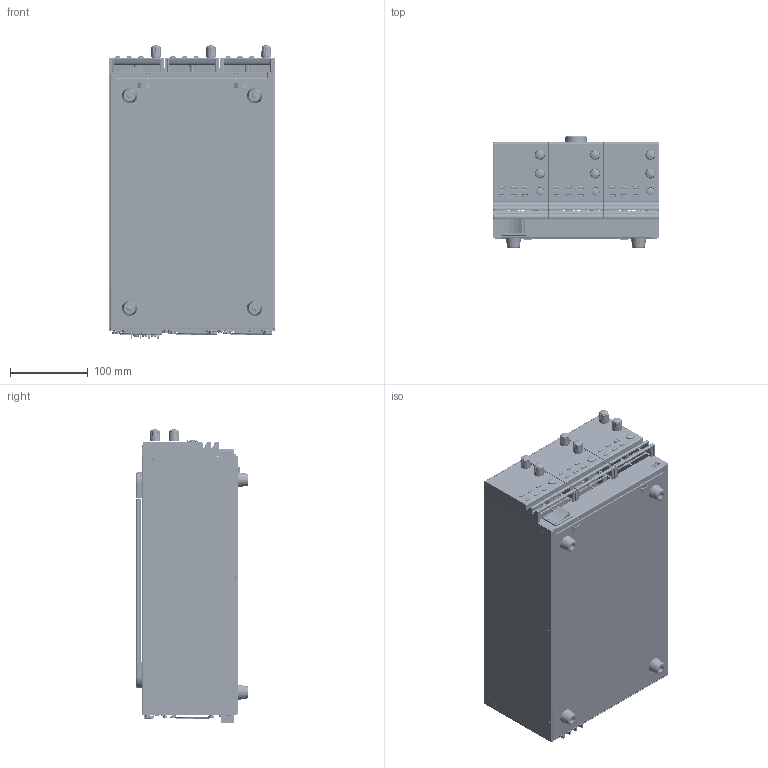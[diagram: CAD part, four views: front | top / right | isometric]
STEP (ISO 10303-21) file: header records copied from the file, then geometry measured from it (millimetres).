
FILE_DESCRIPTION((''),'2;1');
FILE_NAME('PSW-MULTI-CH-H-M3-ASM_ASM','2023-07-04T09:31:13',('shane_wang'),(''),'CREO PARAMETRIC BY PTC INC, 2019080','CREO PARAMETRIC BY PTC INC, 2019080','');
FILE_SCHEMA(('CONFIG_CONTROL_DESIGN'));
Products named in the file (63): PSW-MULTI-CH-L-M3-FP; 62SW-080FP301_ASM; POWER_SW_AJ8R1013; PSW-MULTI-CH-L-M3-FP-ASM_ASM; 63FP-AG107501; INSERT-CU; 63FP-AG107501_ASM; 63KE-XG2001A1; 5005-130G0101; 51SW-30080101; 51SW-804002A1; PSW-F1_ASM_ASM; PMS-W-3X6; PMS-3X4; 62SW-080LO1A1; BSO-M3X55; FH-M4-15; 62SW-080LO1A1_ASM; 57FC-10B0100_GL-4L-B; BMS-W-3X12; USB2; T36-E031-3PIN; RJ-45; PSW-MAINPCB3_ASM_ASM; BMS-LOCK-3X4; BOX-TYPE-PLUGS-26PIN; DOUBLE-ROW-SOCKETS_ASM_ASM; USB; 62SW-080HP501; 5320-00403001-SR-3S-1; 5320-00403001-SR-3S-2; 5320-00403001-SR-3S_ASM; PSW-HIGH-VOLTAGE-AG-PCB-M_ASM_ASM; ME030-381-9P; 62SW-360HP201_ASM; PSW-HV-FILTER-PCB-M1_ASM_ASM; PSW-MULTI-CH-H-M3-LO-ASM_ASM; FMS110-3X6; PSW-MULTI-CH-H-M3-RP; 62SW-080RP401_ASM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
Assembly tree (192 placements, depth 5):
  PSW-MULTI-CH-H-M3-ASM_ASM
    PSW-MULTI-CH-L-M3-FP-ASM_ASM
      62SW-080FP301_ASM
        PSW-MULTI-CH-L-M3-FP
      POWER_SW_AJ8R1013
    PSW-F1_ASM_ASM  x3
      63FP-AG107501_ASM
        63FP-AG107501
        INSERT-CU  x2
      63KE-XG2001A1
      5005-130G0101
      51SW-30080101
      51SW-804002A1
    PMS-W-3X6  x19
    PMS-3X4  x3
    PSW-MULTI-CH-H-M3-LO-ASM_ASM
      62SW-080LO1A1_ASM
        62SW-080LO1A1
        BSO-M3X55  x18
        FH-M4-15
      57FC-10B0100_GL-4L-B  x4
      BMS-W-3X12  x4
      PSW-MAINPCB3_ASM_ASM
        USB2
        T36-E031-3PIN
        RJ-45
      BMS-LOCK-3X4  x16
      PSW-HIGH-VOLTAGE-AG-PCB-M_ASM_ASM  x3
        DOUBLE-ROW-SOCKETS_ASM_ASM
          BOX-TYPE-PLUGS-26PIN
        USB
        62SW-080HP501
        5320-00403001-SR-3S_ASM
          5320-00403001-SR-3S-1
          5320-00403001-SR-3S-2
      PSW-HV-FILTER-PCB-M1_ASM_ASM  x3
        ME030-381-9P
        62SW-360HP201_ASM
    FMS110-3X6  x21
    PSW-MULTI-CH-H-M3-RP-ASM_ASM
      62SW-080RP401_ASM
        PSW-MULTI-CH-H-M3-RP
      FAN-60X60-25  x3
      FAN-NET-60-60  x3
    IMS-3X6  x6
    PSW-MULTI-CH-L-M3-UP-ASM_ASM
      62SW-080UP201_ASM
        PSW-MULTI-CH-L-M3-UP
        S-M4-1_NUT  x2
      BELT_ASM_ASM
        63CH-AG1001A1  x2
        BELT1_ASM_ASM
          550G-20927701
          62DS-300HP3A1
        62DS-300HP401  x2
        612P-04417011  x2
        FMS-4X12  x2
        FMS-4X16  x2
      57RB-30B10001  x2
    62SW-080SC201_ASM  x3
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Bounding box: 212.8 x 144.2 x 376.8 mm (x, y, z)
Volume: 552850.1 mm3; surface area: 867725.8 mm2
Topology: 224 solids, 228 shells, 14211 faces, 35792 edges, 22569 vertices
Faces by surface type: plane 8837, cylinder 2673, cone 1479, bspline 610, sphere 372, torus 240
Entity records: 183563 total; most frequent: CARTESIAN_POINT 47587, DIRECTION 27877, ORIENTED_EDGE 27841, EDGE_CURVE 13945, VECTOR 9759, LINE 9759, AXIS2_PLACEMENT_3D 9059, VERTEX_POINT 8724
